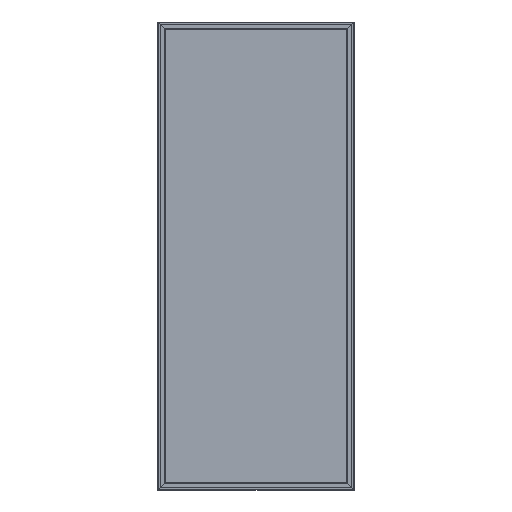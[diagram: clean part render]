
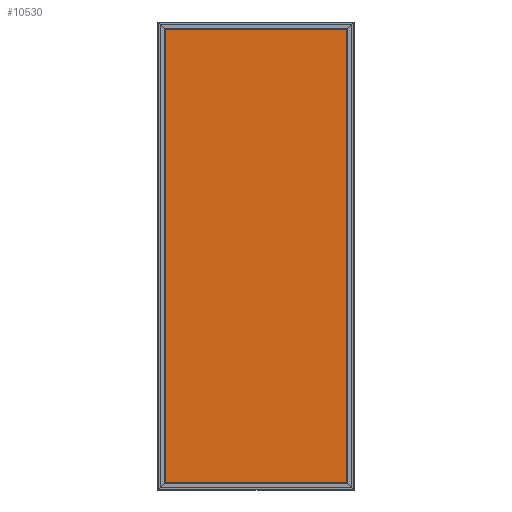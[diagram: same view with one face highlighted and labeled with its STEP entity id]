
A CAD part, top view. The second image highlights one B-rep face of the part: STEP entity #10530.
In plain terms, the highlighted planar face has unit normal (0, 0, 1).
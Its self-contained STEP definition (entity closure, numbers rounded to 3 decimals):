
#236 = LINE ( 'NONE', #12970, #34007 ) ;
#1326 = CARTESIAN_POINT ( 'NONE',  ( 465.07, 0., -13.25 ) ) ;
#1789 = CARTESIAN_POINT ( 'NONE',  ( 465.07, -1162.2, -13.25 ) ) ;
#2336 = CARTESIAN_POINT ( 'NONE',  ( 0., -1162.2, -13.25 ) ) ;
#2867 = LINE ( 'NONE', #15820, #30759 ) ;
#3869 = EDGE_CURVE ( 'NONE', #14415, #10446, #236, .T. ) ;
#4710 = CARTESIAN_POINT ( 'NONE',  ( 0., 0., -13.25 ) ) ;
#5105 = DIRECTION ( 'NONE',  ( -1., 0., 0. ) ) ;
#5204 = VECTOR ( 'NONE', #25999, 1000. ) ;
#6390 = CARTESIAN_POINT ( 'NONE',  ( -465.07, 1162.2, -13.25 ) ) ;
#10446 = VERTEX_POINT ( 'NONE', #6390 ) ;
#10530 = ADVANCED_FACE ( 'NONE', ( #11281 ), #17232, .F. ) ;
#11281 = FACE_OUTER_BOUND ( 'NONE', #33908, .T. ) ;
#12539 = DIRECTION ( 'NONE',  ( -1., 0., 0. ) ) ;
#12970 = CARTESIAN_POINT ( 'NONE',  ( -465.07, 0., -13.25 ) ) ;
#14415 = VERTEX_POINT ( 'NONE', #18335 ) ;
#14561 = AXIS2_PLACEMENT_3D ( 'NONE', #4710, #23605, #5105 ) ;
#14874 = EDGE_CURVE ( 'NONE', #30966, #10446, #2867, .T. ) ;
#15226 = DIRECTION ( 'NONE',  ( 0., 1., 0. ) ) ;
#15820 = CARTESIAN_POINT ( 'NONE',  ( 0., 1162.2, -13.25 ) ) ;
#17232 = PLANE ( 'NONE',  #14561 ) ;
#18335 = CARTESIAN_POINT ( 'NONE',  ( -465.07, -1162.2, -13.25 ) ) ;
#18949 = EDGE_CURVE ( 'NONE', #21998, #30966, #20434, .T. ) ;
#19126 = EDGE_CURVE ( 'NONE', #21998, #14415, #21045, .T. ) ;
#19240 = ORIENTED_EDGE ( 'NONE', *, *, #14874, .T. ) ;
#20434 = LINE ( 'NONE', #1326, #5204 ) ;
#21045 = LINE ( 'NONE', #2336, #30704 ) ;
#21998 = VERTEX_POINT ( 'NONE', #1789 ) ;
#23605 = DIRECTION ( 'NONE',  ( 0., 0., -1. ) ) ;
#23990 = ORIENTED_EDGE ( 'NONE', *, *, #19126, .F. ) ;
#25999 = DIRECTION ( 'NONE',  ( 0., 1., 0. ) ) ;
#28491 = ORIENTED_EDGE ( 'NONE', *, *, #3869, .F. ) ;
#30704 = VECTOR ( 'NONE', #40367, 1000. ) ;
#30759 = VECTOR ( 'NONE', #12539, 1000. ) ;
#30966 = VERTEX_POINT ( 'NONE', #32745 ) ;
#32745 = CARTESIAN_POINT ( 'NONE',  ( 465.07, 1162.2, -13.25 ) ) ;
#33908 = EDGE_LOOP ( 'NONE', ( #28491, #23990, #37021, #19240 ) ) ;
#34007 = VECTOR ( 'NONE', #15226, 1000. ) ;
#37021 = ORIENTED_EDGE ( 'NONE', *, *, #18949, .T. ) ;
#40367 = DIRECTION ( 'NONE',  ( -1., 0., 0. ) ) ;
